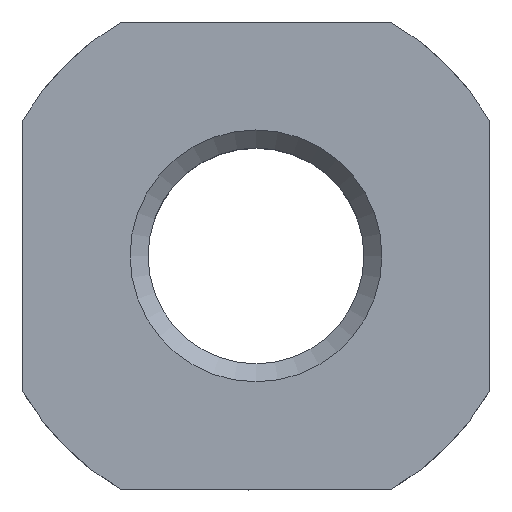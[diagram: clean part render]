
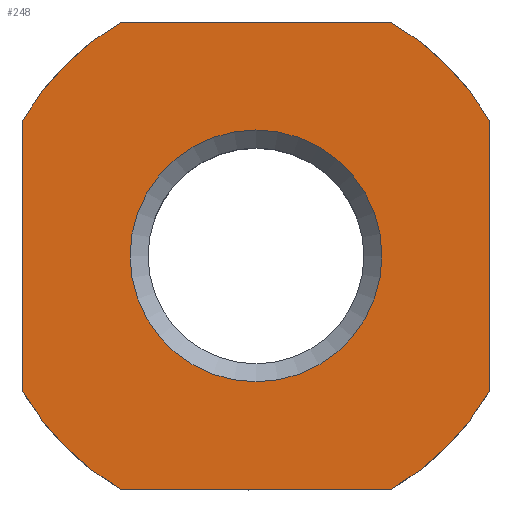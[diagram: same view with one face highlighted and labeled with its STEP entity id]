
A CAD part, top view. The second image highlights one B-rep face of the part: STEP entity #248.
In plain terms, the highlighted planar face has unit normal (0, 0, 1).
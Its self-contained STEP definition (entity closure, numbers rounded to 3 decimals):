
#8 = AXIS2_PLACEMENT_3D ( 'NONE', #288, #673, #815 ) ;
#14 = DIRECTION ( 'NONE',  ( 1., 0., 0. ) ) ;
#15 = VERTEX_POINT ( 'NONE', #927 ) ;
#64 = CARTESIAN_POINT ( 'NONE',  ( -13., 13., 6. ) ) ;
#75 = EDGE_CURVE ( 'NONE', #15, #15, #196, .T. ) ;
#90 = VERTEX_POINT ( 'NONE', #153 ) ;
#101 = ORIENTED_EDGE ( 'NONE', *, *, #616, .T. ) ;
#111 = EDGE_CURVE ( 'NONE', #582, #480, #762, .T. ) ;
#123 = VERTEX_POINT ( 'NONE', #781 ) ;
#151 = CARTESIAN_POINT ( 'NONE',  ( -6.5, 6.5, 6. ) ) ;
#153 = CARTESIAN_POINT ( 'NONE',  ( 0., 2.758, 6. ) ) ;
#157 = DIRECTION ( 'NONE',  ( 1., 0., 0. ) ) ;
#163 = DIRECTION ( 'NONE',  ( 1., 0., 0. ) ) ;
#166 = DIRECTION ( 'NONE',  ( 1., 0., 0. ) ) ;
#182 = VECTOR ( 'NONE', #455, 1000. ) ;
#196 = CIRCLE ( 'NONE', #736, 3.5 ) ;
#207 = DIRECTION ( 'NONE',  ( 0., 0., 1. ) ) ;
#224 = CARTESIAN_POINT ( 'NONE',  ( -13., 2.758, 6. ) ) ;
#225 = CARTESIAN_POINT ( 'NONE',  ( -6.5, 6.5, 6. ) ) ;
#230 = CARTESIAN_POINT ( 'NONE',  ( -10.242, 13., 6. ) ) ;
#240 = VECTOR ( 'NONE', #14, 1000. ) ;
#248 = ADVANCED_FACE ( 'NONE', ( #486, #807 ), #412, .T. ) ;
#256 = ORIENTED_EDGE ( 'NONE', *, *, #863, .T. ) ;
#262 = EDGE_CURVE ( 'NONE', #90, #123, #948, .T. ) ;
#270 = DIRECTION ( 'NONE',  ( 0., 1., 0. ) ) ;
#288 = CARTESIAN_POINT ( 'NONE',  ( -6.5, 6.5, 6. ) ) ;
#318 = CARTESIAN_POINT ( 'NONE',  ( -6.5, 6.5, 6. ) ) ;
#319 = ORIENTED_EDGE ( 'NONE', *, *, #504, .T. ) ;
#339 = CIRCLE ( 'NONE', #961, 7.5 ) ;
#345 = DIRECTION ( 'NONE',  ( 1., 0., 0. ) ) ;
#355 = ORIENTED_EDGE ( 'NONE', *, *, #262, .T. ) ;
#412 = PLANE ( 'NONE',  #936 ) ;
#433 = AXIS2_PLACEMENT_3D ( 'NONE', #318, #474, #166 ) ;
#443 = ORIENTED_EDGE ( 'NONE', *, *, #111, .T. ) ;
#452 = LINE ( 'NONE', #846, #240 ) ;
#455 = DIRECTION ( 'NONE',  ( 0., -1., 0. ) ) ;
#457 = ORIENTED_EDGE ( 'NONE', *, *, #497, .T. ) ;
#464 = CARTESIAN_POINT ( 'NONE',  ( -13., 10.242, 6. ) ) ;
#474 = DIRECTION ( 'NONE',  ( 0., 0., 1. ) ) ;
#480 = VERTEX_POINT ( 'NONE', #224 ) ;
#486 = FACE_BOUND ( 'NONE', #723, .T. ) ;
#497 = EDGE_CURVE ( 'NONE', #618, #582, #769, .T. ) ;
#501 = CARTESIAN_POINT ( 'NONE',  ( -13., 13., 6. ) ) ;
#504 = EDGE_CURVE ( 'NONE', #737, #618, #667, .T. ) ;
#526 = DIRECTION ( 'NONE',  ( 0., 0., 1. ) ) ;
#553 = CIRCLE ( 'NONE', #8, 7.5 ) ;
#561 = VECTOR ( 'NONE', #270, 1000. ) ;
#574 = VERTEX_POINT ( 'NONE', #777 ) ;
#582 = VERTEX_POINT ( 'NONE', #464 ) ;
#598 = DIRECTION ( 'NONE',  ( -1., 0., 0. ) ) ;
#616 = EDGE_CURVE ( 'NONE', #664, #574, #452, .T. ) ;
#618 = VERTEX_POINT ( 'NONE', #230 ) ;
#627 = CARTESIAN_POINT ( 'NONE',  ( -10.242, 0., 6. ) ) ;
#652 = DIRECTION ( 'NONE',  ( 1., 0., 0. ) ) ;
#653 = EDGE_CURVE ( 'NONE', #123, #737, #339, .T. ) ;
#664 = VERTEX_POINT ( 'NONE', #627 ) ;
#667 = LINE ( 'NONE', #501, #886 ) ;
#673 = DIRECTION ( 'NONE',  ( 0., 0., 1. ) ) ;
#684 = AXIS2_PLACEMENT_3D ( 'NONE', #835, #207, #345 ) ;
#705 = ORIENTED_EDGE ( 'NONE', *, *, #728, .T. ) ;
#717 = ORIENTED_EDGE ( 'NONE', *, *, #75, .T. ) ;
#723 = EDGE_LOOP ( 'NONE', ( #717 ) ) ;
#728 = EDGE_CURVE ( 'NONE', #480, #664, #905, .T. ) ;
#729 = CARTESIAN_POINT ( 'NONE',  ( -13., 0., 6. ) ) ;
#736 = AXIS2_PLACEMENT_3D ( 'NONE', #225, #844, #157 ) ;
#737 = VERTEX_POINT ( 'NONE', #808 ) ;
#762 = LINE ( 'NONE', #64, #182 ) ;
#769 = CIRCLE ( 'NONE', #684, 7.5 ) ;
#777 = CARTESIAN_POINT ( 'NONE',  ( -2.758, 0., 6. ) ) ;
#781 = CARTESIAN_POINT ( 'NONE',  ( 0., 10.242, 6. ) ) ;
#792 = EDGE_LOOP ( 'NONE', ( #355, #881, #319, #457, #443, #705, #101, #256 ) ) ;
#807 = FACE_OUTER_BOUND ( 'NONE', #792, .T. ) ;
#808 = CARTESIAN_POINT ( 'NONE',  ( -2.758, 13., 6. ) ) ;
#815 = DIRECTION ( 'NONE',  ( 1., 0., 0. ) ) ;
#835 = CARTESIAN_POINT ( 'NONE',  ( -6.5, 6.5, 6. ) ) ;
#844 = DIRECTION ( 'NONE',  ( 0., 0., -1. ) ) ;
#846 = CARTESIAN_POINT ( 'NONE',  ( -13., 0., 6. ) ) ;
#863 = EDGE_CURVE ( 'NONE', #574, #90, #553, .T. ) ;
#881 = ORIENTED_EDGE ( 'NONE', *, *, #653, .T. ) ;
#882 = DIRECTION ( 'NONE',  ( 0., 0., 1. ) ) ;
#886 = VECTOR ( 'NONE', #598, 1000. ) ;
#905 = CIRCLE ( 'NONE', #433, 7.5 ) ;
#927 = CARTESIAN_POINT ( 'NONE',  ( -3., 6.5, 6. ) ) ;
#936 = AXIS2_PLACEMENT_3D ( 'NONE', #729, #882, #652 ) ;
#948 = LINE ( 'NONE', #954, #561 ) ;
#954 = CARTESIAN_POINT ( 'NONE',  ( 0., 13., 6. ) ) ;
#961 = AXIS2_PLACEMENT_3D ( 'NONE', #151, #526, #163 ) ;
